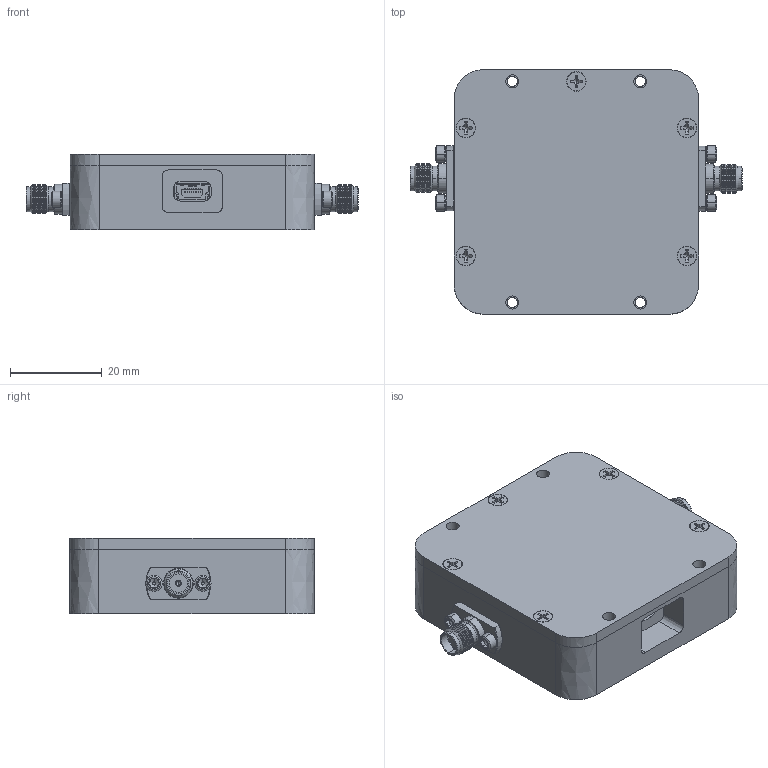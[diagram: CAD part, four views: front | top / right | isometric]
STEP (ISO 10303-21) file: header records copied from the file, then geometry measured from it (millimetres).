
FILE_DESCRIPTION(('FreeCAD Model'),'2;1');
FILE_NAME('C:/Users/Daniel/Dropbox (Atlanta Micro)/Designs/AM Modules/Custom Enclosures/Customer 3D Models/Large Filter Module/LargeFilterModule.step','2022-07-12T15:43:39',('Author'),(''), 'Open CASCADE STEP processor 7.3','FreeCAD','Unknown');
FILE_SCHEMA(('AUTOMOTIVE_DESIGN { 1 0 10303 214 1 1 1 1 }'));
Products named in the file (13): AM3023B-M_Cover_Enclosure1_001; Socket_Head_2-56_x_3-16in1_004; Socket_Head_2-56_x_3-16in1_003; ANO_212-931-15321_001; Phillips_Flat_Head_Screw_2-56_x_3-16in1_004; MUSB-05-F-B-SM-A-TR1_001; Phillips_Flat_Head_Screw_2-56_x_3-16in1_005; Socket_Head_2-56_x_3-16in1_001; Socket_Head_2-56_x_3-16in1_002; Phillips_Flat_Head_Screw_2-56_x_3-16in1_001; Phillips_Flat_Head_Screw_2-56_x_3-16in1_002; Phillips_Flat_Head_Screw_2-56_x_3-16in1_003; ANO_212-931-15321_002
Bounding box: 72.46 x 53.34 x 16.52 mm (x, y, z)
Volume: 31337.8 mm3; surface area: 21147 mm2
Topology: 15 solids, 16 shells, 1631 faces, 4240 edges, 2709 vertices
Faces by surface type: extrusion 501, plane 452, cylinder 402, cone 225, bspline 27, torus 24
Full cylindrical faces by diameter (mm): 0.8 x2, 1.778 x14, 2.184 x5, 2.261 x5, 2.845 x4, 4.953 x2, 5.199 x1
Entity records: 141602 total; most frequent: CARTESIAN_POINT 52782, DIRECTION 12466, ORIENTED_EDGE 8434, PCURVE 8434, DEFINITIONAL_REPRESENTATION 8434, VECTOR 8432, LINE 7931, EDGE_CURVE 4217
